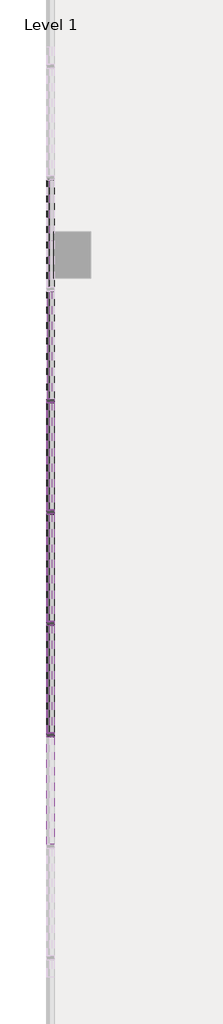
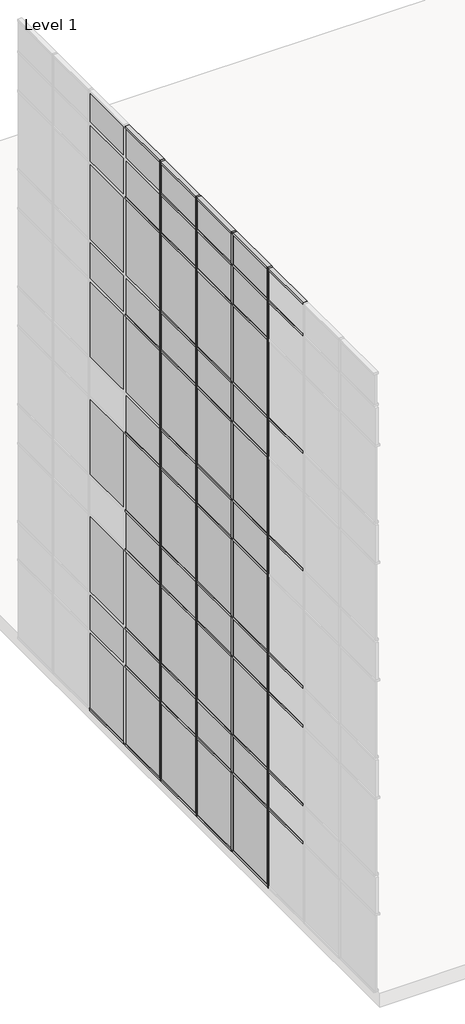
# One storey, part 2 of 23: 78 members, 53 plates.
"""IFC4 building model written with IfcOpenShell, lengths in millimetres."""

from ifc_helpers import new_model, si_unit, origin, place, context, project, spatial, transform, mapped, element, save
from components import member_f92b8aa2, member_810865a4, member_6d5c3e5e, member_9764dd38, system_panel_glazed_14c75400, system_panel_solid_5dfe6f83, system_panel_solid_e25e2004, system_panel_solid_b7551183

model = new_model("IFC4")

# Units and contexts
model_context = context("Model", 3, world=origin())
ifc_project = project(units=[si_unit("LENGTHUNIT", "METRE", prefix="MILLI")], contexts=[model_context])

# Site, building, storey
site = spatial("IfcSite", under=ifc_project)
building = spatial("IfcBuilding", under=site)
storey = spatial("IfcBuildingStorey", under=building, Name="Level 1", Elevation=0.0)

# Members
placement = place(None, origin())
member_shape = member_f92b8aa2(model_context)
element("IfcMember", 1, ObjectType="Rectangular Mullion : 2.5\" x 5\" rectangular", at=placement, inside=storey, context=model_context, shape_type="MappedRepresentation", body=[
    mapped(member_shape, transform((-68724.2599961, -22243.3853492, 18288.0), x_axis=(0.0, 1.0, 0.0), y_axis=(1.0, 0.0, 0.0), z_axis=(0.0, 0.0, -1.0))),
])
element("IfcMember", 2, ObjectType="Rectangular Mullion : 2.5\" x 5\" rectangular", at=placement, inside=storey, context=model_context, shape_type="MappedRepresentation", body=[
    mapped(member_shape, transform((-68724.2599961, -20414.5853492, 18288.0), x_axis=(0.0, 1.0, 0.0), y_axis=(1.0, 0.0, 0.0), z_axis=(0.0, 0.0, -1.0))),
])
element("IfcMember", 3, ObjectType="Rectangular Mullion : 2.5\" x 5\" rectangular", at=placement, inside=storey, context=model_context, shape_type="MappedRepresentation", body=[
    mapped(member_shape, transform((-68724.2599961, -18585.7853492, 18288.0), x_axis=(0.0, 1.0, 0.0), y_axis=(1.0, 0.0, 0.0), z_axis=(0.0, 0.0, -1.0))),
])
element("IfcMember", 4, ObjectType="Rectangular Mullion : 2.5\" x 5\" rectangular", at=placement, inside=storey, context=model_context, shape_type="MappedRepresentation", body=[
    mapped(member_shape, transform((-68724.2599961, -16756.9853492, 18288.0), x_axis=(0.0, 1.0, 0.0), y_axis=(1.0, 0.0, 0.0), z_axis=(0.0, 0.0, -1.0))),
])
member_2_shape = member_810865a4(model_context)
element("IfcMember", 5, ObjectType="Rectangular Mullion : 2.5\" x 5\" rectangular", at=placement, inside=storey, context=model_context, shape_type="MappedRepresentation", body=[
    mapped(member_2_shape, transform((-68724.2599961, -22243.3853492, 3657.6), x_axis=(0.0, 1.0, 0.0), y_axis=(1.0, 0.0, 0.0), z_axis=(0.0, 0.0, -1.0))),
])
element("IfcMember", 6, ObjectType="Rectangular Mullion : 2.5\" x 5\" rectangular", at=placement, inside=storey, context=model_context, shape_type="MappedRepresentation", body=[
    mapped(member_2_shape, transform((-68724.2599961, -20414.5853492, 3657.6), x_axis=(0.0, 1.0, 0.0), y_axis=(1.0, 0.0, 0.0), z_axis=(0.0, 0.0, -1.0))),
])
element("IfcMember", 7, ObjectType="Rectangular Mullion : 2.5\" x 5\" rectangular", at=placement, inside=storey, context=model_context, shape_type="MappedRepresentation", body=[
    mapped(member_2_shape, transform((-68724.2599961, -18585.7853492, 3657.6), x_axis=(0.0, 1.0, 0.0), y_axis=(1.0, 0.0, 0.0), z_axis=(0.0, 0.0, -1.0))),
])
element("IfcMember", 8, ObjectType="Rectangular Mullion : 2.5\" x 5\" rectangular", at=placement, inside=storey, context=model_context, shape_type="MappedRepresentation", body=[
    mapped(member_2_shape, transform((-68724.2599961, -16756.9853492, 3657.6), x_axis=(0.0, 1.0, 0.0), y_axis=(1.0, 0.0, 0.0), z_axis=(0.0, 0.0, -1.0))),
])
element("IfcMember", 9, ObjectType="Rectangular Mullion : 2.5\" x 5\" rectangular", at=placement, inside=storey, context=model_context, shape_type="MappedRepresentation", body=[
    mapped(member_2_shape, transform((-68724.2599961, -22243.3853492, 7315.2), x_axis=(0.0, 1.0, 0.0), y_axis=(1.0, 0.0, 0.0), z_axis=(0.0, 0.0, -1.0))),
])
element("IfcMember", 10, ObjectType="Rectangular Mullion : 2.5\" x 5\" rectangular", at=placement, inside=storey, context=model_context, shape_type="MappedRepresentation", body=[
    mapped(member_2_shape, transform((-68724.2599961, -20414.5853492, 7315.2), x_axis=(0.0, 1.0, 0.0), y_axis=(1.0, 0.0, 0.0), z_axis=(0.0, 0.0, -1.0))),
])
element("IfcMember", 11, ObjectType="Rectangular Mullion : 2.5\" x 5\" rectangular", at=placement, inside=storey, context=model_context, shape_type="MappedRepresentation", body=[
    mapped(member_2_shape, transform((-68724.2599961, -18585.7853492, 7315.2), x_axis=(0.0, 1.0, 0.0), y_axis=(1.0, 0.0, 0.0), z_axis=(0.0, 0.0, -1.0))),
])
element("IfcMember", 12, ObjectType="Rectangular Mullion : 2.5\" x 5\" rectangular", at=placement, inside=storey, context=model_context, shape_type="MappedRepresentation", body=[
    mapped(member_2_shape, transform((-68724.2599961, -16756.9853492, 7315.2), x_axis=(0.0, 1.0, 0.0), y_axis=(1.0, 0.0, 0.0), z_axis=(0.0, 0.0, -1.0))),
])
element("IfcMember", 13, ObjectType="Rectangular Mullion : 2.5\" x 5\" rectangular", at=placement, inside=storey, context=model_context, shape_type="MappedRepresentation", body=[
    mapped(member_2_shape, transform((-68724.2599961, -22243.3853492, 10972.8), x_axis=(0.0, 1.0, 0.0), y_axis=(1.0, 0.0, 0.0), z_axis=(0.0, 0.0, -1.0))),
])
element("IfcMember", 14, ObjectType="Rectangular Mullion : 2.5\" x 5\" rectangular", at=placement, inside=storey, context=model_context, shape_type="MappedRepresentation", body=[
    mapped(member_2_shape, transform((-68724.2599961, -20414.5853492, 10972.8), x_axis=(0.0, 1.0, 0.0), y_axis=(1.0, 0.0, 0.0), z_axis=(0.0, 0.0, -1.0))),
])
element("IfcMember", 15, ObjectType="Rectangular Mullion : 2.5\" x 5\" rectangular", at=placement, inside=storey, context=model_context, shape_type="MappedRepresentation", body=[
    mapped(member_2_shape, transform((-68724.2599961, -18585.7853492, 10972.8), x_axis=(0.0, 1.0, 0.0), y_axis=(1.0, 0.0, 0.0), z_axis=(0.0, 0.0, -1.0))),
])
element("IfcMember", 16, ObjectType="Rectangular Mullion : 2.5\" x 5\" rectangular", at=placement, inside=storey, context=model_context, shape_type="MappedRepresentation", body=[
    mapped(member_2_shape, transform((-68724.2599961, -16756.9853492, 10972.8), x_axis=(0.0, 1.0, 0.0), y_axis=(1.0, 0.0, 0.0), z_axis=(0.0, 0.0, -1.0))),
])
element("IfcMember", 17, ObjectType="Rectangular Mullion : 2.5\" x 5\" rectangular", at=placement, inside=storey, context=model_context, shape_type="MappedRepresentation", body=[
    mapped(member_2_shape, transform((-68724.2599961, -22243.3853492, 14630.4), x_axis=(0.0, 1.0, 0.0), y_axis=(1.0, 0.0, 0.0), z_axis=(0.0, 0.0, -1.0))),
])
element("IfcMember", 18, ObjectType="Rectangular Mullion : 2.5\" x 5\" rectangular", at=placement, inside=storey, context=model_context, shape_type="MappedRepresentation", body=[
    mapped(member_2_shape, transform((-68724.2599961, -20414.5853492, 14630.4), x_axis=(0.0, 1.0, 0.0), y_axis=(1.0, 0.0, 0.0), z_axis=(0.0, 0.0, -1.0))),
])
element("IfcMember", 19, ObjectType="Rectangular Mullion : 2.5\" x 5\" rectangular", at=placement, inside=storey, context=model_context, shape_type="MappedRepresentation", body=[
    mapped(member_2_shape, transform((-68724.2599961, -18585.7853492, 14630.4), x_axis=(0.0, 1.0, 0.0), y_axis=(1.0, 0.0, 0.0), z_axis=(0.0, 0.0, -1.0))),
])
element("IfcMember", 20, ObjectType="Rectangular Mullion : 2.5\" x 5\" rectangular", at=placement, inside=storey, context=model_context, shape_type="MappedRepresentation", body=[
    mapped(member_2_shape, transform((-68724.2599961, -16756.9853492, 14630.4), x_axis=(0.0, 1.0, 0.0), y_axis=(1.0, 0.0, 0.0), z_axis=(0.0, 0.0, -1.0))),
])
member_3_shape = member_6d5c3e5e(model_context)
element("IfcMember", 21, ObjectType="Rectangular Mullion : 2.5\" x 5\" rectangular", at=placement, inside=storey, context=model_context, shape_type="MappedRepresentation", body=[
    mapped(member_3_shape, transform((-68724.2599961, -22275.1353492, 19304.0), x_axis=(0.0, 0.0, 1.0), y_axis=(1.0, 0.0, 0.0), z_axis=(0.0, 1.0, 0.0))),
])
element("IfcMember", 22, ObjectType="Rectangular Mullion : 2.5\" x 5\" rectangular", at=placement, inside=storey, context=model_context, shape_type="MappedRepresentation", body=[
    mapped(member_3_shape, transform((-68724.2599961, -20446.3353492, 19304.0), x_axis=(0.0, 0.0, 1.0), y_axis=(1.0, 0.0, 0.0), z_axis=(0.0, 1.0, 0.0))),
])
element("IfcMember", 23, ObjectType="Rectangular Mullion : 2.5\" x 5\" rectangular", at=placement, inside=storey, context=model_context, shape_type="MappedRepresentation", body=[
    mapped(member_3_shape, transform((-68724.2599961, -18617.5353492, 19304.0), x_axis=(0.0, 0.0, 1.0), y_axis=(1.0, 0.0, 0.0), z_axis=(0.0, 1.0, 0.0))),
])
element("IfcMember", 24, ObjectType="Rectangular Mullion : 2.5\" x 5\" rectangular", at=placement, inside=storey, context=model_context, shape_type="MappedRepresentation", body=[
    mapped(member_3_shape, transform((-68724.2599961, -16788.7353492, 19304.0), x_axis=(0.0, 0.0, 1.0), y_axis=(1.0, 0.0, 0.0), z_axis=(0.0, 1.0, 0.0))),
])
element("IfcMember", 25, ObjectType="Rectangular Mullion : 2.5\" x 5\" rectangular", at=placement, inside=storey, context=model_context, shape_type="MappedRepresentation", body=[
    mapped(member_3_shape, transform((-68724.2599961, -14959.9353492, 19304.0), x_axis=(0.0, 0.0, 1.0), y_axis=(1.0, 0.0, 0.0), z_axis=(0.0, 1.0, 0.0))),
])
member_4_shape = member_9764dd38(model_context)
element("IfcMember", 26, ObjectType="Rectangular Mullion : 2.5\" x 5\" rectangular", at=placement, inside=storey, context=model_context, shape_type="MappedRepresentation", body=[
    mapped(member_4_shape, transform((-68724.2599961, -14959.9353492, 17068.8), x_axis=(0.0, 0.0, 1.0), y_axis=(1.0, 0.0, 0.0), z_axis=(0.0, 1.0, 0.0))),
])
element("IfcMember", 27, ObjectType="Rectangular Mullion : 2.5\" x 5\" rectangular", at=placement, inside=storey, context=model_context, shape_type="MappedRepresentation", body=[
    mapped(member_4_shape, transform((-68724.2599961, -16788.7353492, 17068.8), x_axis=(0.0, 0.0, 1.0), y_axis=(1.0, 0.0, 0.0), z_axis=(0.0, 1.0, 0.0))),
])
element("IfcMember", 28, ObjectType="Rectangular Mullion : 2.5\" x 5\" rectangular", at=placement, inside=storey, context=model_context, shape_type="MappedRepresentation", body=[
    mapped(member_4_shape, transform((-68724.2599961, -18617.5353492, 17068.8), x_axis=(0.0, 0.0, 1.0), y_axis=(1.0, 0.0, 0.0), z_axis=(0.0, 1.0, 0.0))),
])
element("IfcMember", 29, ObjectType="Rectangular Mullion : 2.5\" x 5\" rectangular", at=placement, inside=storey, context=model_context, shape_type="MappedRepresentation", body=[
    mapped(member_4_shape, transform((-68724.2599961, -20446.3353492, 17068.8), x_axis=(0.0, 0.0, 1.0), y_axis=(1.0, 0.0, 0.0), z_axis=(0.0, 1.0, 0.0))),
])
element("IfcMember", 30, ObjectType="Rectangular Mullion : 2.5\" x 5\" rectangular", at=placement, inside=storey, context=model_context, shape_type="MappedRepresentation", body=[
    mapped(member_4_shape, transform((-68724.2599961, -14959.9353492, 13411.2), x_axis=(0.0, 0.0, 1.0), y_axis=(1.0, 0.0, 0.0), z_axis=(0.0, 1.0, 0.0))),
])
element("IfcMember", 31, ObjectType="Rectangular Mullion : 2.5\" x 5\" rectangular", at=placement, inside=storey, context=model_context, shape_type="MappedRepresentation", body=[
    mapped(member_4_shape, transform((-68724.2599961, -16788.7353492, 13411.2), x_axis=(0.0, 0.0, 1.0), y_axis=(1.0, 0.0, 0.0), z_axis=(0.0, 1.0, 0.0))),
])
element("IfcMember", 32, ObjectType="Rectangular Mullion : 2.5\" x 5\" rectangular", at=placement, inside=storey, context=model_context, shape_type="MappedRepresentation", body=[
    mapped(member_4_shape, transform((-68724.2599961, -18617.5353492, 13411.2), x_axis=(0.0, 0.0, 1.0), y_axis=(1.0, 0.0, 0.0), z_axis=(0.0, 1.0, 0.0))),
])
element("IfcMember", 33, ObjectType="Rectangular Mullion : 2.5\" x 5\" rectangular", at=placement, inside=storey, context=model_context, shape_type="MappedRepresentation", body=[
    mapped(member_4_shape, transform((-68724.2599961, -20446.3353492, 13411.2), x_axis=(0.0, 0.0, 1.0), y_axis=(1.0, 0.0, 0.0), z_axis=(0.0, 1.0, 0.0))),
])
element("IfcMember", 34, ObjectType="Rectangular Mullion : 2.5\" x 5\" rectangular", at=placement, inside=storey, context=model_context, shape_type="MappedRepresentation", body=[
    mapped(member_4_shape, transform((-68724.2599961, -14959.9353492, 9753.6), x_axis=(0.0, 0.0, 1.0), y_axis=(1.0, 0.0, 0.0), z_axis=(0.0, 1.0, 0.0))),
])
element("IfcMember", 35, ObjectType="Rectangular Mullion : 2.5\" x 5\" rectangular", at=placement, inside=storey, context=model_context, shape_type="MappedRepresentation", body=[
    mapped(member_4_shape, transform((-68724.2599961, -16788.7353492, 9753.6), x_axis=(0.0, 0.0, 1.0), y_axis=(1.0, 0.0, 0.0), z_axis=(0.0, 1.0, 0.0))),
])
element("IfcMember", 36, ObjectType="Rectangular Mullion : 2.5\" x 5\" rectangular", at=placement, inside=storey, context=model_context, shape_type="MappedRepresentation", body=[
    mapped(member_4_shape, transform((-68724.2599961, -18617.5353492, 9753.6), x_axis=(0.0, 0.0, 1.0), y_axis=(1.0, 0.0, 0.0), z_axis=(0.0, 1.0, 0.0))),
])
element("IfcMember", 37, ObjectType="Rectangular Mullion : 2.5\" x 5\" rectangular", at=placement, inside=storey, context=model_context, shape_type="MappedRepresentation", body=[
    mapped(member_4_shape, transform((-68724.2599961, -20446.3353492, 9753.6), x_axis=(0.0, 0.0, 1.0), y_axis=(1.0, 0.0, 0.0), z_axis=(0.0, 1.0, 0.0))),
])
element("IfcMember", 38, ObjectType="Rectangular Mullion : 2.5\" x 5\" rectangular", at=placement, inside=storey, context=model_context, shape_type="MappedRepresentation", body=[
    mapped(member_4_shape, transform((-68724.2599961, -14959.9353492, 6096.0), x_axis=(0.0, 0.0, 1.0), y_axis=(1.0, 0.0, 0.0), z_axis=(0.0, 1.0, 0.0))),
])
element("IfcMember", 39, ObjectType="Rectangular Mullion : 2.5\" x 5\" rectangular", at=placement, inside=storey, context=model_context, shape_type="MappedRepresentation", body=[
    mapped(member_4_shape, transform((-68724.2599961, -16788.7353492, 6096.0), x_axis=(0.0, 0.0, 1.0), y_axis=(1.0, 0.0, 0.0), z_axis=(0.0, 1.0, 0.0))),
])
element("IfcMember", 40, ObjectType="Rectangular Mullion : 2.5\" x 5\" rectangular", at=placement, inside=storey, context=model_context, shape_type="MappedRepresentation", body=[
    mapped(member_4_shape, transform((-68724.2599961, -18617.5353492, 6096.0), x_axis=(0.0, 0.0, 1.0), y_axis=(1.0, 0.0, 0.0), z_axis=(0.0, 1.0, 0.0))),
])
element("IfcMember", 41, ObjectType="Rectangular Mullion : 2.5\" x 5\" rectangular", at=placement, inside=storey, context=model_context, shape_type="MappedRepresentation", body=[
    mapped(member_4_shape, transform((-68724.2599961, -20446.3353492, 6096.0), x_axis=(0.0, 0.0, 1.0), y_axis=(1.0, 0.0, 0.0), z_axis=(0.0, 1.0, 0.0))),
])
element("IfcMember", 42, ObjectType="Rectangular Mullion : 2.5\" x 5\" rectangular", at=placement, inside=storey, context=model_context, shape_type="MappedRepresentation", body=[
    mapped(member_4_shape, transform((-68724.2599961, -22275.1353492, 6096.0), x_axis=(0.0, 0.0, 1.0), y_axis=(1.0, 0.0, 0.0), z_axis=(0.0, 1.0, 0.0))),
])
element("IfcMember", 43, ObjectType="Rectangular Mullion : 2.5\" x 5\" rectangular", at=placement, inside=storey, context=model_context, shape_type="MappedRepresentation", body=[
    mapped(member_4_shape, transform((-68724.2599961, -14959.9353492, 2470.15), x_axis=(0.0, 0.0, 1.0), y_axis=(1.0, 0.0, 0.0), z_axis=(0.0, 1.0, 0.0))),
])
element("IfcMember", 44, ObjectType="Rectangular Mullion : 2.5\" x 5\" rectangular", at=placement, inside=storey, context=model_context, shape_type="MappedRepresentation", body=[
    mapped(member_4_shape, transform((-68724.2599961, -16788.7353492, 2470.15), x_axis=(0.0, 0.0, 1.0), y_axis=(1.0, 0.0, 0.0), z_axis=(0.0, 1.0, 0.0))),
])
element("IfcMember", 45, ObjectType="Rectangular Mullion : 2.5\" x 5\" rectangular", at=placement, inside=storey, context=model_context, shape_type="MappedRepresentation", body=[
    mapped(member_4_shape, transform((-68724.2599961, -18617.5353492, 2470.15), x_axis=(0.0, 0.0, 1.0), y_axis=(1.0, 0.0, 0.0), z_axis=(0.0, 1.0, 0.0))),
])
element("IfcMember", 46, ObjectType="Rectangular Mullion : 2.5\" x 5\" rectangular", at=placement, inside=storey, context=model_context, shape_type="MappedRepresentation", body=[
    mapped(member_4_shape, transform((-68724.2599961, -20446.3353492, 2470.15), x_axis=(0.0, 0.0, 1.0), y_axis=(1.0, 0.0, 0.0), z_axis=(0.0, 1.0, 0.0))),
])
element("IfcMember", 47, ObjectType="Rectangular Mullion : 2.5\" x 5\" rectangular", at=placement, inside=storey, context=model_context, shape_type="MappedRepresentation", body=[
    mapped(member_4_shape, transform((-68724.2599961, -22275.1353492, 2470.15), x_axis=(0.0, 0.0, 1.0), y_axis=(1.0, 0.0, 0.0), z_axis=(0.0, 1.0, 0.0))),
])
element("IfcMember", 48, ObjectType="Rectangular Mullion : 2.5\" x 5\" rectangular", at=placement, inside=storey, context=model_context, shape_type="MappedRepresentation", body=[
    mapped(member_2_shape, transform((-68724.2599961, -22243.3853492, 0.0), x_axis=(0.0, 1.0, 0.0), y_axis=(1.0, 0.0, 0.0), z_axis=(0.0, 0.0, -1.0))),
])
element("IfcMember", 49, ObjectType="Rectangular Mullion : 2.5\" x 5\" rectangular", at=placement, inside=storey, context=model_context, shape_type="MappedRepresentation", body=[
    mapped(member_2_shape, transform((-68724.2599961, -20414.5853492, 0.0), x_axis=(0.0, 1.0, 0.0), y_axis=(1.0, 0.0, 0.0), z_axis=(0.0, 0.0, -1.0))),
])
element("IfcMember", 50, ObjectType="Rectangular Mullion : 2.5\" x 5\" rectangular", at=placement, inside=storey, context=model_context, shape_type="MappedRepresentation", body=[
    mapped(member_2_shape, transform((-68724.2599961, -18585.7853492, 0.0), x_axis=(0.0, 1.0, 0.0), y_axis=(1.0, 0.0, 0.0), z_axis=(0.0, 0.0, -1.0))),
])
element("IfcMember", 51, ObjectType="Rectangular Mullion : 2.5\" x 5\" rectangular", at=placement, inside=storey, context=model_context, shape_type="MappedRepresentation", body=[
    mapped(member_2_shape, transform((-68724.2599961, -16756.9853492, 0.0), x_axis=(0.0, 1.0, 0.0), y_axis=(1.0, 0.0, 0.0), z_axis=(0.0, 0.0, -1.0))),
])
element("IfcMember", 52, ObjectType="Rectangular Mullion : 2.5\" x 5\" rectangular", at=placement, inside=storey, context=model_context, shape_type="MappedRepresentation", body=[
    mapped(member_3_shape, transform((-68724.2599961, -22211.6353492, 0.0), x_axis=(0.0, 0.0, -1.0), y_axis=(1.0, 0.0, 0.0), z_axis=(0.0, -1.0, 0.0))),
])
element("IfcMember", 53, ObjectType="Rectangular Mullion : 2.5\" x 5\" rectangular", at=placement, inside=storey, context=model_context, shape_type="MappedRepresentation", body=[
    mapped(member_3_shape, transform((-68724.2599961, -20382.8353492, 0.0), x_axis=(0.0, 0.0, -1.0), y_axis=(1.0, 0.0, 0.0), z_axis=(0.0, -1.0, 0.0))),
])
element("IfcMember", 54, ObjectType="Rectangular Mullion : 2.5\" x 5\" rectangular", at=placement, inside=storey, context=model_context, shape_type="MappedRepresentation", body=[
    mapped(member_3_shape, transform((-68724.2599961, -18554.0353492, 0.0), x_axis=(0.0, 0.0, -1.0), y_axis=(1.0, 0.0, 0.0), z_axis=(0.0, -1.0, 0.0))),
])
element("IfcMember", 55, ObjectType="Rectangular Mullion : 2.5\" x 5\" rectangular", at=placement, inside=storey, context=model_context, shape_type="MappedRepresentation", body=[
    mapped(member_3_shape, transform((-68724.2599961, -16725.2353492, 0.0), x_axis=(0.0, 0.0, -1.0), y_axis=(1.0, 0.0, 0.0), z_axis=(0.0, -1.0, 0.0))),
])
element("IfcMember", 56, ObjectType="Rectangular Mullion : 2.5\" x 5\" rectangular", at=placement, inside=storey, context=model_context, shape_type="MappedRepresentation", body=[
    mapped(member_3_shape, transform((-68724.2599961, -14896.4353492, 0.0), x_axis=(0.0, 0.0, -1.0), y_axis=(1.0, 0.0, 0.0), z_axis=(0.0, -1.0, 0.0))),
])
element("IfcMember", 57, ObjectType="Rectangular Mullion : 2.5\" x 5\" rectangular", at=placement, inside=storey, context=model_context, shape_type="MappedRepresentation", body=[
    mapped(member_4_shape, transform((-68724.2599961, -22275.1353492, 3657.6), x_axis=(0.0, 0.0, 1.0), y_axis=(1.0, 0.0, 0.0), z_axis=(0.0, 1.0, 0.0))),
])
element("IfcMember", 58, ObjectType="Rectangular Mullion : 2.5\" x 5\" rectangular", at=placement, inside=storey, context=model_context, shape_type="MappedRepresentation", body=[
    mapped(member_4_shape, transform((-68724.2599961, -20446.3353492, 3657.6), x_axis=(0.0, 0.0, 1.0), y_axis=(1.0, 0.0, 0.0), z_axis=(0.0, 1.0, 0.0))),
])
element("IfcMember", 59, ObjectType="Rectangular Mullion : 2.5\" x 5\" rectangular", at=placement, inside=storey, context=model_context, shape_type="MappedRepresentation", body=[
    mapped(member_4_shape, transform((-68724.2599961, -18617.5353492, 3657.6), x_axis=(0.0, 0.0, 1.0), y_axis=(1.0, 0.0, 0.0), z_axis=(0.0, 1.0, 0.0))),
])
element("IfcMember", 60, ObjectType="Rectangular Mullion : 2.5\" x 5\" rectangular", at=placement, inside=storey, context=model_context, shape_type="MappedRepresentation", body=[
    mapped(member_4_shape, transform((-68724.2599961, -16788.7353492, 3657.6), x_axis=(0.0, 0.0, 1.0), y_axis=(1.0, 0.0, 0.0), z_axis=(0.0, 1.0, 0.0))),
])
element("IfcMember", 61, ObjectType="Rectangular Mullion : 2.5\" x 5\" rectangular", at=placement, inside=storey, context=model_context, shape_type="MappedRepresentation", body=[
    mapped(member_4_shape, transform((-68724.2599961, -14959.9353492, 3657.6), x_axis=(0.0, 0.0, 1.0), y_axis=(1.0, 0.0, 0.0), z_axis=(0.0, 1.0, 0.0))),
])
element("IfcMember", 62, ObjectType="Rectangular Mullion : 2.5\" x 5\" rectangular", at=placement, inside=storey, context=model_context, shape_type="MappedRepresentation", body=[
    mapped(member_4_shape, transform((-68724.2599961, -22275.1353492, 7315.2), x_axis=(0.0, 0.0, 1.0), y_axis=(1.0, 0.0, 0.0), z_axis=(0.0, 1.0, 0.0))),
])
element("IfcMember", 63, ObjectType="Rectangular Mullion : 2.5\" x 5\" rectangular", at=placement, inside=storey, context=model_context, shape_type="MappedRepresentation", body=[
    mapped(member_4_shape, transform((-68724.2599961, -20446.3353492, 7315.2), x_axis=(0.0, 0.0, 1.0), y_axis=(1.0, 0.0, 0.0), z_axis=(0.0, 1.0, 0.0))),
])
element("IfcMember", 64, ObjectType="Rectangular Mullion : 2.5\" x 5\" rectangular", at=placement, inside=storey, context=model_context, shape_type="MappedRepresentation", body=[
    mapped(member_4_shape, transform((-68724.2599961, -18617.5353492, 7315.2), x_axis=(0.0, 0.0, 1.0), y_axis=(1.0, 0.0, 0.0), z_axis=(0.0, 1.0, 0.0))),
])
element("IfcMember", 65, ObjectType="Rectangular Mullion : 2.5\" x 5\" rectangular", at=placement, inside=storey, context=model_context, shape_type="MappedRepresentation", body=[
    mapped(member_4_shape, transform((-68724.2599961, -16788.7353492, 7315.2), x_axis=(0.0, 0.0, 1.0), y_axis=(1.0, 0.0, 0.0), z_axis=(0.0, 1.0, 0.0))),
])
element("IfcMember", 66, ObjectType="Rectangular Mullion : 2.5\" x 5\" rectangular", at=placement, inside=storey, context=model_context, shape_type="MappedRepresentation", body=[
    mapped(member_4_shape, transform((-68724.2599961, -14959.9353492, 7315.2), x_axis=(0.0, 0.0, 1.0), y_axis=(1.0, 0.0, 0.0), z_axis=(0.0, 1.0, 0.0))),
])
element("IfcMember", 67, ObjectType="Rectangular Mullion : 2.5\" x 5\" rectangular", at=placement, inside=storey, context=model_context, shape_type="MappedRepresentation", body=[
    mapped(member_4_shape, transform((-68724.2599961, -22275.1353492, 10972.8), x_axis=(0.0, 0.0, 1.0), y_axis=(1.0, 0.0, 0.0), z_axis=(0.0, 1.0, 0.0))),
])
element("IfcMember", 68, ObjectType="Rectangular Mullion : 2.5\" x 5\" rectangular", at=placement, inside=storey, context=model_context, shape_type="MappedRepresentation", body=[
    mapped(member_4_shape, transform((-68724.2599961, -20446.3353492, 10972.8), x_axis=(0.0, 0.0, 1.0), y_axis=(1.0, 0.0, 0.0), z_axis=(0.0, 1.0, 0.0))),
])
element("IfcMember", 69, ObjectType="Rectangular Mullion : 2.5\" x 5\" rectangular", at=placement, inside=storey, context=model_context, shape_type="MappedRepresentation", body=[
    mapped(member_4_shape, transform((-68724.2599961, -18617.5353492, 10972.8), x_axis=(0.0, 0.0, 1.0), y_axis=(1.0, 0.0, 0.0), z_axis=(0.0, 1.0, 0.0))),
])
element("IfcMember", 70, ObjectType="Rectangular Mullion : 2.5\" x 5\" rectangular", at=placement, inside=storey, context=model_context, shape_type="MappedRepresentation", body=[
    mapped(member_4_shape, transform((-68724.2599961, -16788.7353492, 10972.8), x_axis=(0.0, 0.0, 1.0), y_axis=(1.0, 0.0, 0.0), z_axis=(0.0, 1.0, 0.0))),
])
element("IfcMember", 71, ObjectType="Rectangular Mullion : 2.5\" x 5\" rectangular", at=placement, inside=storey, context=model_context, shape_type="MappedRepresentation", body=[
    mapped(member_4_shape, transform((-68724.2599961, -22275.1353492, 14630.4), x_axis=(0.0, 0.0, 1.0), y_axis=(1.0, 0.0, 0.0), z_axis=(0.0, 1.0, 0.0))),
])
element("IfcMember", 72, ObjectType="Rectangular Mullion : 2.5\" x 5\" rectangular", at=placement, inside=storey, context=model_context, shape_type="MappedRepresentation", body=[
    mapped(member_4_shape, transform((-68724.2599961, -20446.3353492, 14630.4), x_axis=(0.0, 0.0, 1.0), y_axis=(1.0, 0.0, 0.0), z_axis=(0.0, 1.0, 0.0))),
])
element("IfcMember", 73, ObjectType="Rectangular Mullion : 2.5\" x 5\" rectangular", at=placement, inside=storey, context=model_context, shape_type="MappedRepresentation", body=[
    mapped(member_4_shape, transform((-68724.2599961, -18617.5353492, 14630.4), x_axis=(0.0, 0.0, 1.0), y_axis=(1.0, 0.0, 0.0), z_axis=(0.0, 1.0, 0.0))),
])
element("IfcMember", 74, ObjectType="Rectangular Mullion : 2.5\" x 5\" rectangular", at=placement, inside=storey, context=model_context, shape_type="MappedRepresentation", body=[
    mapped(member_4_shape, transform((-68724.2599961, -16788.7353492, 14630.4), x_axis=(0.0, 0.0, 1.0), y_axis=(1.0, 0.0, 0.0), z_axis=(0.0, 1.0, 0.0))),
])
element("IfcMember", 75, ObjectType="Rectangular Mullion : 2.5\" x 5\" rectangular", at=placement, inside=storey, context=model_context, shape_type="MappedRepresentation", body=[
    mapped(member_4_shape, transform((-68724.2599961, -22275.1353492, 18288.0), x_axis=(0.0, 0.0, 1.0), y_axis=(1.0, 0.0, 0.0), z_axis=(0.0, 1.0, 0.0))),
])
element("IfcMember", 76, ObjectType="Rectangular Mullion : 2.5\" x 5\" rectangular", at=placement, inside=storey, context=model_context, shape_type="MappedRepresentation", body=[
    mapped(member_4_shape, transform((-68724.2599961, -20446.3353492, 18288.0), x_axis=(0.0, 0.0, 1.0), y_axis=(1.0, 0.0, 0.0), z_axis=(0.0, 1.0, 0.0))),
])
element("IfcMember", 77, ObjectType="Rectangular Mullion : 2.5\" x 5\" rectangular", at=placement, inside=storey, context=model_context, shape_type="MappedRepresentation", body=[
    mapped(member_4_shape, transform((-68724.2599961, -18617.5353492, 18288.0), x_axis=(0.0, 0.0, 1.0), y_axis=(1.0, 0.0, 0.0), z_axis=(0.0, 1.0, 0.0))),
])
element("IfcMember", 78, ObjectType="Rectangular Mullion : 2.5\" x 5\" rectangular", at=placement, inside=storey, context=model_context, shape_type="MappedRepresentation", body=[
    mapped(member_4_shape, transform((-68724.2599961, -16788.7353492, 18288.0), x_axis=(0.0, 0.0, 1.0), y_axis=(1.0, 0.0, 0.0), z_axis=(0.0, 1.0, 0.0))),
])

# Plates
system_panel_glazed_shape = system_panel_glazed_14c75400(model_context)
element("IfcPlate", 79, ObjectType="System Panel : Glazed", at=placement, inside=storey, context=model_context, shape_type="MappedRepresentation", body=[
    mapped(system_panel_glazed_shape, transform((-68724.2599961, -14013.7853492, 14662.15), x_axis=(0.0, 1.0, 0.0), y_axis=(-1.0, 0.0, 0.0), z_axis=(0.0, 0.0, 1.0))),
])
element("IfcPlate", 80, ObjectType="System Panel : Glazed", at=placement, inside=storey, context=model_context, shape_type="MappedRepresentation", body=[
    mapped(system_panel_glazed_shape, transform((-68724.2599961, -15842.5853492, 14662.15), x_axis=(0.0, 1.0, 0.0), y_axis=(-1.0, 0.0, 0.0), z_axis=(0.0, 0.0, 1.0))),
])
element("IfcPlate", 81, ObjectType="System Panel : Glazed", at=placement, inside=storey, context=model_context, shape_type="MappedRepresentation", body=[
    mapped(system_panel_glazed_shape, transform((-68724.2599961, -17671.3853492, 14662.15), x_axis=(0.0, 1.0, 0.0), y_axis=(-1.0, 0.0, 0.0), z_axis=(0.0, 0.0, 1.0))),
])
element("IfcPlate", 82, ObjectType="System Panel : Glazed", at=placement, inside=storey, context=model_context, shape_type="MappedRepresentation", body=[
    mapped(system_panel_glazed_shape, transform((-68724.2599961, -19500.1853492, 14662.15), x_axis=(0.0, 1.0, 0.0), y_axis=(-1.0, 0.0, 0.0), z_axis=(0.0, 0.0, 1.0))),
])
element("IfcPlate", 83, ObjectType="System Panel : Glazed", at=placement, inside=storey, context=model_context, shape_type="MappedRepresentation", body=[
    mapped(system_panel_glazed_shape, transform((-68724.2599961, -21328.9853492, 14662.15), x_axis=(0.0, 1.0, 0.0), y_axis=(-1.0, 0.0, 0.0), z_axis=(0.0, 0.0, 1.0))),
])
element("IfcPlate", 84, ObjectType="System Panel : Glazed", at=placement, inside=storey, context=model_context, shape_type="MappedRepresentation", body=[
    mapped(system_panel_glazed_shape, transform((-68724.2599961, -14013.7853492, 11004.55), x_axis=(0.0, 1.0, 0.0), y_axis=(-1.0, 0.0, 0.0), z_axis=(0.0, 0.0, 1.0))),
])
element("IfcPlate", 85, ObjectType="System Panel : Glazed", at=placement, inside=storey, context=model_context, shape_type="MappedRepresentation", body=[
    mapped(system_panel_glazed_shape, transform((-68724.2599961, -15842.5853492, 11004.55), x_axis=(0.0, 1.0, 0.0), y_axis=(-1.0, 0.0, 0.0), z_axis=(0.0, 0.0, 1.0))),
])
element("IfcPlate", 86, ObjectType="System Panel : Glazed", at=placement, inside=storey, context=model_context, shape_type="MappedRepresentation", body=[
    mapped(system_panel_glazed_shape, transform((-68724.2599961, -17671.3853492, 11004.55), x_axis=(0.0, 1.0, 0.0), y_axis=(-1.0, 0.0, 0.0), z_axis=(0.0, 0.0, 1.0))),
])
element("IfcPlate", 87, ObjectType="System Panel : Glazed", at=placement, inside=storey, context=model_context, shape_type="MappedRepresentation", body=[
    mapped(system_panel_glazed_shape, transform((-68724.2599961, -19500.1853492, 11004.55), x_axis=(0.0, 1.0, 0.0), y_axis=(-1.0, 0.0, 0.0), z_axis=(0.0, 0.0, 1.0))),
])
element("IfcPlate", 88, ObjectType="System Panel : Glazed", at=placement, inside=storey, context=model_context, shape_type="MappedRepresentation", body=[
    mapped(system_panel_glazed_shape, transform((-68724.2599961, -21328.9853492, 11004.55), x_axis=(0.0, 1.0, 0.0), y_axis=(-1.0, 0.0, 0.0), z_axis=(0.0, 0.0, 1.0))),
])
element("IfcPlate", 89, ObjectType="System Panel : Glazed", at=placement, inside=storey, context=model_context, shape_type="MappedRepresentation", body=[
    mapped(system_panel_glazed_shape, transform((-68724.2599961, -14013.7853492, 7346.95), x_axis=(0.0, 1.0, 0.0), y_axis=(-1.0, 0.0, 0.0), z_axis=(0.0, 0.0, 1.0))),
])
element("IfcPlate", 90, ObjectType="System Panel : Glazed", at=placement, inside=storey, context=model_context, shape_type="MappedRepresentation", body=[
    mapped(system_panel_glazed_shape, transform((-68724.2599961, -15842.5853492, 7346.95), x_axis=(0.0, 1.0, 0.0), y_axis=(-1.0, 0.0, 0.0), z_axis=(0.0, 0.0, 1.0))),
])
element("IfcPlate", 91, ObjectType="System Panel : Glazed", at=placement, inside=storey, context=model_context, shape_type="MappedRepresentation", body=[
    mapped(system_panel_glazed_shape, transform((-68724.2599961, -17671.3853492, 7346.95), x_axis=(0.0, 1.0, 0.0), y_axis=(-1.0, 0.0, 0.0), z_axis=(0.0, 0.0, 1.0))),
])
element("IfcPlate", 92, ObjectType="System Panel : Glazed", at=placement, inside=storey, context=model_context, shape_type="MappedRepresentation", body=[
    mapped(system_panel_glazed_shape, transform((-68724.2599961, -19500.1853492, 7346.95), x_axis=(0.0, 1.0, 0.0), y_axis=(-1.0, 0.0, 0.0), z_axis=(0.0, 0.0, 1.0))),
])
element("IfcPlate", 93, ObjectType="System Panel : Glazed", at=placement, inside=storey, context=model_context, shape_type="MappedRepresentation", body=[
    mapped(system_panel_glazed_shape, transform((-68724.2599961, -21328.9853492, 7346.95), x_axis=(0.0, 1.0, 0.0), y_axis=(-1.0, 0.0, 0.0), z_axis=(0.0, 0.0, 1.0))),
])
element("IfcPlate", 94, ObjectType="System Panel : Glazed", at=placement, inside=storey, context=model_context, shape_type="MappedRepresentation", body=[
    mapped(system_panel_glazed_shape, transform((-68724.2599961, -14013.7853492, 3689.35), x_axis=(0.0, 1.0, 0.0), y_axis=(-1.0, 0.0, 0.0), z_axis=(0.0, 0.0, 1.0))),
])
element("IfcPlate", 95, ObjectType="System Panel : Glazed", at=placement, inside=storey, context=model_context, shape_type="MappedRepresentation", body=[
    mapped(system_panel_glazed_shape, transform((-68724.2599961, -15842.5853492, 3689.35), x_axis=(0.0, 1.0, 0.0), y_axis=(-1.0, 0.0, 0.0), z_axis=(0.0, 0.0, 1.0))),
])
element("IfcPlate", 96, ObjectType="System Panel : Glazed", at=placement, inside=storey, context=model_context, shape_type="MappedRepresentation", body=[
    mapped(system_panel_glazed_shape, transform((-68724.2599961, -17671.3853492, 3689.35), x_axis=(0.0, 1.0, 0.0), y_axis=(-1.0, 0.0, 0.0), z_axis=(0.0, 0.0, 1.0))),
])
element("IfcPlate", 97, ObjectType="System Panel : Glazed", at=placement, inside=storey, context=model_context, shape_type="MappedRepresentation", body=[
    mapped(system_panel_glazed_shape, transform((-68724.2599961, -19500.1853492, 3689.35), x_axis=(0.0, 1.0, 0.0), y_axis=(-1.0, 0.0, 0.0), z_axis=(0.0, 0.0, 1.0))),
])
element("IfcPlate", 98, ObjectType="System Panel : Glazed", at=placement, inside=storey, context=model_context, shape_type="MappedRepresentation", body=[
    mapped(system_panel_glazed_shape, transform((-68724.2599961, -21328.9853492, 3689.35), x_axis=(0.0, 1.0, 0.0), y_axis=(-1.0, 0.0, 0.0), z_axis=(0.0, 0.0, 1.0))),
])
element("IfcPlate", 99, ObjectType="System Panel : Glazed", at=placement, inside=storey, context=model_context, shape_type="MappedRepresentation", body=[
    mapped(system_panel_glazed_shape, transform((-68724.2599961, -14013.7853492, 63.5), x_axis=(0.0, 1.0, 0.0), y_axis=(-1.0, 0.0, 0.0), z_axis=(0.0, 0.0, 1.0))),
])
element("IfcPlate", 100, ObjectType="System Panel : Glazed", at=placement, inside=storey, context=model_context, shape_type="MappedRepresentation", body=[
    mapped(system_panel_glazed_shape, transform((-68724.2599961, -15842.5853492, 63.5), x_axis=(0.0, 1.0, 0.0), y_axis=(-1.0, 0.0, 0.0), z_axis=(0.0, 0.0, 1.0))),
])
element("IfcPlate", 101, ObjectType="System Panel : Glazed", at=placement, inside=storey, context=model_context, shape_type="MappedRepresentation", body=[
    mapped(system_panel_glazed_shape, transform((-68724.2599961, -17671.3853492, 63.5), x_axis=(0.0, 1.0, 0.0), y_axis=(-1.0, 0.0, 0.0), z_axis=(0.0, 0.0, 1.0))),
])
element("IfcPlate", 102, ObjectType="System Panel : Glazed", at=placement, inside=storey, context=model_context, shape_type="MappedRepresentation", body=[
    mapped(system_panel_glazed_shape, transform((-68724.2599961, -19500.1853492, 63.5), x_axis=(0.0, 1.0, 0.0), y_axis=(-1.0, 0.0, 0.0), z_axis=(0.0, 0.0, 1.0))),
])
element("IfcPlate", 103, ObjectType="System Panel : Glazed", at=placement, inside=storey, context=model_context, shape_type="MappedRepresentation", body=[
    mapped(system_panel_glazed_shape, transform((-68724.2599961, -21328.9853492, 63.5), x_axis=(0.0, 1.0, 0.0), y_axis=(-1.0, 0.0, 0.0), z_axis=(0.0, 0.0, 1.0))),
])
system_panel_solid_shape = system_panel_solid_5dfe6f83(model_context)
element("IfcPlate", 104, ObjectType="System Panel : Solid", at=placement, inside=storey, context=model_context, shape_type="MappedRepresentation", body=[
    mapped(system_panel_solid_shape, transform((-68724.2599961, -21328.9853492, 18319.75), x_axis=(0.0, 1.0, 0.0), y_axis=(-1.0, 0.0, 0.0), z_axis=(0.0, 0.0, 1.0))),
])
element("IfcPlate", 105, ObjectType="System Panel : Solid", at=placement, inside=storey, context=model_context, shape_type="MappedRepresentation", body=[
    mapped(system_panel_solid_shape, transform((-68724.2599961, -19500.1853492, 18319.75), x_axis=(0.0, 1.0, 0.0), y_axis=(-1.0, 0.0, 0.0), z_axis=(0.0, 0.0, 1.0))),
])
element("IfcPlate", 106, ObjectType="System Panel : Solid", at=placement, inside=storey, context=model_context, shape_type="MappedRepresentation", body=[
    mapped(system_panel_solid_shape, transform((-68724.2599961, -17671.3853492, 18319.75), x_axis=(0.0, 1.0, 0.0), y_axis=(-1.0, 0.0, 0.0), z_axis=(0.0, 0.0, 1.0))),
])
element("IfcPlate", 107, ObjectType="System Panel : Solid", at=placement, inside=storey, context=model_context, shape_type="MappedRepresentation", body=[
    mapped(system_panel_solid_shape, transform((-68724.2599961, -15842.5853492, 18319.75), x_axis=(0.0, 1.0, 0.0), y_axis=(-1.0, 0.0, 0.0), z_axis=(0.0, 0.0, 1.0))),
])
element("IfcPlate", 108, ObjectType="System Panel : Solid", at=placement, inside=storey, context=model_context, shape_type="MappedRepresentation", body=[
    mapped(system_panel_solid_shape, transform((-68724.2599961, -14013.7853492, 18319.75), x_axis=(0.0, 1.0, 0.0), y_axis=(-1.0, 0.0, 0.0), z_axis=(0.0, 0.0, 1.0))),
])
system_panel_solid_2_shape = system_panel_solid_e25e2004(model_context)
element("IfcPlate", 109, ObjectType="System Panel : Solid", at=placement, inside=storey, context=model_context, shape_type="MappedRepresentation", body=[
    mapped(system_panel_solid_2_shape, transform((-68724.2599961, -14013.7853492, 17100.55), x_axis=(0.0, 1.0, 0.0), y_axis=(-1.0, 0.0, 0.0), z_axis=(0.0, 0.0, 1.0))),
])
element("IfcPlate", 110, ObjectType="System Panel : Solid", at=placement, inside=storey, context=model_context, shape_type="MappedRepresentation", body=[
    mapped(system_panel_solid_2_shape, transform((-68724.2599961, -15842.5853492, 17100.55), x_axis=(0.0, 1.0, 0.0), y_axis=(-1.0, 0.0, 0.0), z_axis=(0.0, 0.0, 1.0))),
])
element("IfcPlate", 111, ObjectType="System Panel : Solid", at=placement, inside=storey, context=model_context, shape_type="MappedRepresentation", body=[
    mapped(system_panel_solid_2_shape, transform((-68724.2599961, -17671.3853492, 17100.55), x_axis=(0.0, 1.0, 0.0), y_axis=(-1.0, 0.0, 0.0), z_axis=(0.0, 0.0, 1.0))),
])
element("IfcPlate", 112, ObjectType="System Panel : Solid", at=placement, inside=storey, context=model_context, shape_type="MappedRepresentation", body=[
    mapped(system_panel_solid_2_shape, transform((-68724.2599961, -19500.1853492, 17100.55), x_axis=(0.0, 1.0, 0.0), y_axis=(-1.0, 0.0, 0.0), z_axis=(0.0, 0.0, 1.0))),
])
element("IfcPlate", 113, ObjectType="System Panel : Solid", at=placement, inside=storey, context=model_context, shape_type="MappedRepresentation", body=[
    mapped(system_panel_solid_2_shape, transform((-68724.2599961, -21328.9853492, 17100.55), x_axis=(0.0, 1.0, 0.0), y_axis=(-1.0, 0.0, 0.0), z_axis=(0.0, 0.0, 1.0))),
])
element("IfcPlate", 114, ObjectType="System Panel : Solid", at=placement, inside=storey, context=model_context, shape_type="MappedRepresentation", body=[
    mapped(system_panel_solid_2_shape, transform((-68724.2599961, -14013.7853492, 13442.95), x_axis=(0.0, 1.0, 0.0), y_axis=(-1.0, 0.0, 0.0), z_axis=(0.0, 0.0, 1.0))),
])
element("IfcPlate", 115, ObjectType="System Panel : Solid", at=placement, inside=storey, context=model_context, shape_type="MappedRepresentation", body=[
    mapped(system_panel_solid_2_shape, transform((-68724.2599961, -15842.5853492, 13442.95), x_axis=(0.0, 1.0, 0.0), y_axis=(-1.0, 0.0, 0.0), z_axis=(0.0, 0.0, 1.0))),
])
element("IfcPlate", 116, ObjectType="System Panel : Solid", at=placement, inside=storey, context=model_context, shape_type="MappedRepresentation", body=[
    mapped(system_panel_solid_2_shape, transform((-68724.2599961, -17671.3853492, 13442.95), x_axis=(0.0, 1.0, 0.0), y_axis=(-1.0, 0.0, 0.0), z_axis=(0.0, 0.0, 1.0))),
])
element("IfcPlate", 117, ObjectType="System Panel : Solid", at=placement, inside=storey, context=model_context, shape_type="MappedRepresentation", body=[
    mapped(system_panel_solid_2_shape, transform((-68724.2599961, -19500.1853492, 13442.95), x_axis=(0.0, 1.0, 0.0), y_axis=(-1.0, 0.0, 0.0), z_axis=(0.0, 0.0, 1.0))),
])
element("IfcPlate", 118, ObjectType="System Panel : Solid", at=placement, inside=storey, context=model_context, shape_type="MappedRepresentation", body=[
    mapped(system_panel_solid_2_shape, transform((-68724.2599961, -21328.9853492, 13442.95), x_axis=(0.0, 1.0, 0.0), y_axis=(-1.0, 0.0, 0.0), z_axis=(0.0, 0.0, 1.0))),
])
element("IfcPlate", 119, ObjectType="System Panel : Solid", at=placement, inside=storey, context=model_context, shape_type="MappedRepresentation", body=[
    mapped(system_panel_solid_2_shape, transform((-68724.2599961, -15842.5853492, 9785.35), x_axis=(0.0, 1.0, 0.0), y_axis=(-1.0, 0.0, 0.0), z_axis=(0.0, 0.0, 1.0))),
])
element("IfcPlate", 120, ObjectType="System Panel : Solid", at=placement, inside=storey, context=model_context, shape_type="MappedRepresentation", body=[
    mapped(system_panel_solid_2_shape, transform((-68724.2599961, -17671.3853492, 9785.35), x_axis=(0.0, 1.0, 0.0), y_axis=(-1.0, 0.0, 0.0), z_axis=(0.0, 0.0, 1.0))),
])
element("IfcPlate", 121, ObjectType="System Panel : Solid", at=placement, inside=storey, context=model_context, shape_type="MappedRepresentation", body=[
    mapped(system_panel_solid_2_shape, transform((-68724.2599961, -19500.1853492, 9785.35), x_axis=(0.0, 1.0, 0.0), y_axis=(-1.0, 0.0, 0.0), z_axis=(0.0, 0.0, 1.0))),
])
element("IfcPlate", 122, ObjectType="System Panel : Solid", at=placement, inside=storey, context=model_context, shape_type="MappedRepresentation", body=[
    mapped(system_panel_solid_2_shape, transform((-68724.2599961, -21328.9853492, 9785.35), x_axis=(0.0, 1.0, 0.0), y_axis=(-1.0, 0.0, 0.0), z_axis=(0.0, 0.0, 1.0))),
])
element("IfcPlate", 123, ObjectType="System Panel : Solid", at=placement, inside=storey, context=model_context, shape_type="MappedRepresentation", body=[
    mapped(system_panel_solid_2_shape, transform((-68724.2599961, -15842.5853492, 6127.75), x_axis=(0.0, 1.0, 0.0), y_axis=(-1.0, 0.0, 0.0), z_axis=(0.0, 0.0, 1.0))),
])
element("IfcPlate", 124, ObjectType="System Panel : Solid", at=placement, inside=storey, context=model_context, shape_type="MappedRepresentation", body=[
    mapped(system_panel_solid_2_shape, transform((-68724.2599961, -17671.3853492, 6127.75), x_axis=(0.0, 1.0, 0.0), y_axis=(-1.0, 0.0, 0.0), z_axis=(0.0, 0.0, 1.0))),
])
element("IfcPlate", 125, ObjectType="System Panel : Solid", at=placement, inside=storey, context=model_context, shape_type="MappedRepresentation", body=[
    mapped(system_panel_solid_2_shape, transform((-68724.2599961, -19500.1853492, 6127.75), x_axis=(0.0, 1.0, 0.0), y_axis=(-1.0, 0.0, 0.0), z_axis=(0.0, 0.0, 1.0))),
])
element("IfcPlate", 126, ObjectType="System Panel : Solid", at=placement, inside=storey, context=model_context, shape_type="MappedRepresentation", body=[
    mapped(system_panel_solid_2_shape, transform((-68724.2599961, -21328.9853492, 6127.75), x_axis=(0.0, 1.0, 0.0), y_axis=(-1.0, 0.0, 0.0), z_axis=(0.0, 0.0, 1.0))),
])
system_panel_solid_3_shape = system_panel_solid_b7551183(model_context)
element("IfcPlate", 127, ObjectType="System Panel : Solid", at=placement, inside=storey, context=model_context, shape_type="MappedRepresentation", body=[
    mapped(system_panel_solid_3_shape, transform((-68724.2599961, -14013.7853492, 2501.9), x_axis=(0.0, 1.0, 0.0), y_axis=(-1.0, 0.0, 0.0), z_axis=(0.0, 0.0, 1.0))),
])
element("IfcPlate", 128, ObjectType="System Panel : Solid", at=placement, inside=storey, context=model_context, shape_type="MappedRepresentation", body=[
    mapped(system_panel_solid_3_shape, transform((-68724.2599961, -15842.5853492, 2501.9), x_axis=(0.0, 1.0, 0.0), y_axis=(-1.0, 0.0, 0.0), z_axis=(0.0, 0.0, 1.0))),
])
element("IfcPlate", 129, ObjectType="System Panel : Solid", at=placement, inside=storey, context=model_context, shape_type="MappedRepresentation", body=[
    mapped(system_panel_solid_3_shape, transform((-68724.2599961, -17671.3853492, 2501.9), x_axis=(0.0, 1.0, 0.0), y_axis=(-1.0, 0.0, 0.0), z_axis=(0.0, 0.0, 1.0))),
])
element("IfcPlate", 130, ObjectType="System Panel : Solid", at=placement, inside=storey, context=model_context, shape_type="MappedRepresentation", body=[
    mapped(system_panel_solid_3_shape, transform((-68724.2599961, -19500.1853492, 2501.9), x_axis=(0.0, 1.0, 0.0), y_axis=(-1.0, 0.0, 0.0), z_axis=(0.0, 0.0, 1.0))),
])
element("IfcPlate", 131, ObjectType="System Panel : Solid", at=placement, inside=storey, context=model_context, shape_type="MappedRepresentation", body=[
    mapped(system_panel_solid_3_shape, transform((-68724.2599961, -21328.9853492, 2501.9), x_axis=(0.0, 1.0, 0.0), y_axis=(-1.0, 0.0, 0.0), z_axis=(0.0, 0.0, 1.0))),
])

save(model, "model.ifc")
